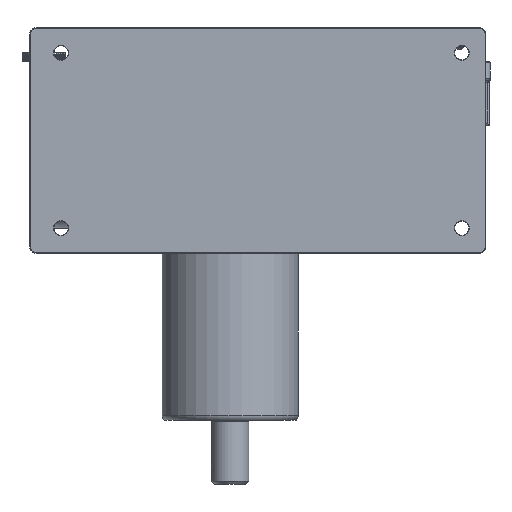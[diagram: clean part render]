
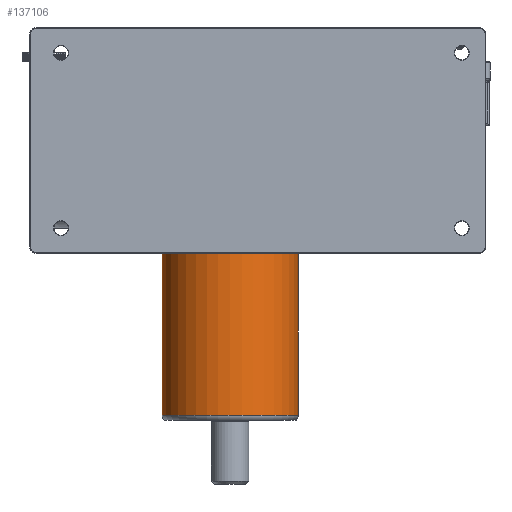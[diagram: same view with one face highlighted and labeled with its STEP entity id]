
A CAD part, front view. The second image highlights one B-rep face of the part: STEP entity #137106.
In plain terms, the highlighted cylindrical face has radius 34.544 mm (diameter 69.088 mm), a partial arc.
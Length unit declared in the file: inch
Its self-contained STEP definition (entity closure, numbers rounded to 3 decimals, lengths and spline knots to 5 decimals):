
#2321 = EDGE_LOOP ( 'NONE', ( #18201, #18203, #18205, #18207 ) ) ;
#18201 = ORIENTED_EDGE ( 'NONE', *, *, #31022, .F. ) ;
#18203 = ORIENTED_EDGE ( 'NONE', *, *, #127496, .T. ) ;
#18205 = ORIENTED_EDGE ( 'NONE', *, *, #31157, .T. ) ;
#18207 = ORIENTED_EDGE ( 'NONE', *, *, #31029, .T. ) ;
#31022 = EDGE_CURVE ( 'NONE', #38133, #38132, #59473, .T. ) ;
#31029 = EDGE_CURVE ( 'NONE', #38131, #38132, #59486, .T. ) ;
#31157 = EDGE_CURVE ( 'NONE', #38130, #38131, #59620, .T. ) ;
#38130 = VERTEX_POINT ( 'NONE', #79287 ) ;
#38131 = VERTEX_POINT ( 'NONE', #79288 ) ;
#38132 = VERTEX_POINT ( 'NONE', #79289 ) ;
#38133 = VERTEX_POINT ( 'NONE', #79290 ) ;
#57785 = DIRECTION ( 'NONE',  ( 0., 0., 1. ) ) ;
#57797 = CARTESIAN_POINT ( 'NONE',  ( -1.36, 0., -3.86 ) ) ;
#57827 = CARTESIAN_POINT ( 'NONE',  ( 0., 0., -0.25 ) ) ;
#57829 = DIRECTION ( 'NONE',  ( 0., 0., -1. ) ) ;
#57831 = DIRECTION ( 'NONE',  ( 1., 0., 0. ) ) ;
#58623 = CARTESIAN_POINT ( 'NONE',  ( 1.36, 0., -3.86 ) ) ;
#58624 = DIRECTION ( 'NONE',  ( 0., 0., 1. ) ) ;
#59473 = LINE ( 'NONE', #57797, #59475 ) ;
#59475 = VECTOR ( 'NONE', #57785, 39.37008 ) ;
#59486 = CIRCLE ( 'NONE', #97358, 1.36 ) ;
#59620 = LINE ( 'NONE', #58623, #59621 ) ;
#59621 = VECTOR ( 'NONE', #58624, 39.37008 ) ;
#79287 = CARTESIAN_POINT ( 'NONE',  ( 1.36, 0., -3.735 ) ) ;
#79288 = CARTESIAN_POINT ( 'NONE',  ( 1.36, 0., -0.25 ) ) ;
#79289 = CARTESIAN_POINT ( 'NONE',  ( -1.36, 0., -0.25 ) ) ;
#79290 = CARTESIAN_POINT ( 'NONE',  ( -1.36, 0., -3.735 ) ) ;
#83778 = FACE_OUTER_BOUND ( 'NONE', #2321, .T. ) ;
#83792 = CYLINDRICAL_SURFACE ( 'NONE', #113714, 1.36 ) ;
#97358 = AXIS2_PLACEMENT_3D ( 'NONE', #57827, #57829, #57831 ) ;
#99502 = CIRCLE ( 'NONE', #112238, 1.36 ) ;
#112238 = AXIS2_PLACEMENT_3D ( 'NONE', #118499, #118501, #118503 ) ;
#113714 = AXIS2_PLACEMENT_3D ( 'NONE', #121703, #121701, #121696 ) ;
#118499 = CARTESIAN_POINT ( 'NONE',  ( 0., 0., -3.735 ) ) ;
#118501 = DIRECTION ( 'NONE',  ( 0., 0., 1. ) ) ;
#118503 = DIRECTION ( 'NONE',  ( -1., 0., 0. ) ) ;
#121696 = DIRECTION ( 'NONE',  ( 1., 0., 0. ) ) ;
#121701 = DIRECTION ( 'NONE',  ( 0., 0., 1. ) ) ;
#121703 = CARTESIAN_POINT ( 'NONE',  ( 0., 0., -3.86 ) ) ;
#127496 = EDGE_CURVE ( 'NONE', #38133, #38130, #99502, .T. ) ;
#137106 = ADVANCED_FACE ( 'NONE', ( #83778 ), #83792, .T. ) ;
